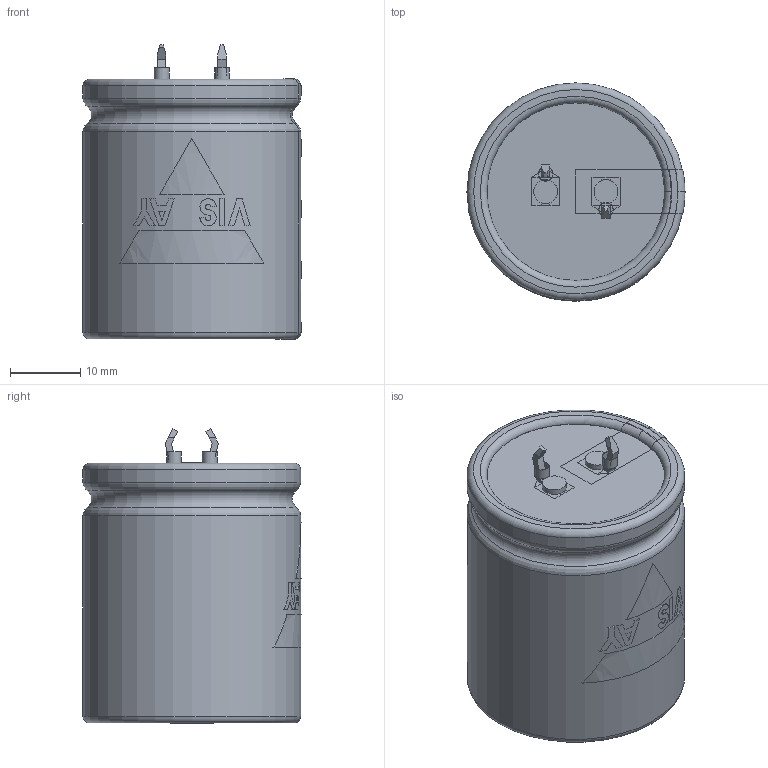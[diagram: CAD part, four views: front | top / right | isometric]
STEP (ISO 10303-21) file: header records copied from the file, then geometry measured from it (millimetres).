
FILE_DESCRIPTION(('FreeCAD Model'),'2;1');
FILE_NAME( 'C:/Users/Gebruiker/Documents/FreeCAD/SnapIn_30x35_2pin_4.0.step', '2020-11-12T20:21:13',('Author'),(''), 'Open CASCADE STEP processor 6.8','FreeCAD','Unknown');
FILE_SCHEMA(('AUTOMOTIVE_DESIGN_CC2 { 1 2 10303 214 -1 1 5 4 }'));
Length unit declared in the file: millimetre
Products named in the file (9): ASSEMBLY; TerminalMin; TerminalPlus; PCBHoles; Disc; BottomInsulation; Can3D; InkMinusBar; InkLogo
Assembly tree (8 placements, depth 2):
  ASSEMBLY
    TerminalMin
    TerminalPlus
    PCBHoles
    Disc
    BottomInsulation
    Can3D
    InkMinusBar
    InkLogo
Bounding box: 31.05 x 31.05 x 41.95 mm (x, y, z)
Volume: 31832.1 mm3; surface area: 12544.3 mm2
Topology: 15 solids, 15 shells, 184 faces, 454 edges, 298 vertices
Faces by surface type: plane 138, cylinder 28, torus 18
Full cylindrical faces by diameter (mm): 2 x2, 2.1 x2, 3.4 x2, 24.8 x2, 25.3 x1, 31 x2
Entity records: 19203 total; most frequent: CARTESIAN_POINT 9011, DIRECTION 1597, ORIENTED_EDGE 908, PCURVE 908, DEFINITIONAL_REPRESENTATION 908, LINE 901, VECTOR 901, EDGE_CURVE 454
